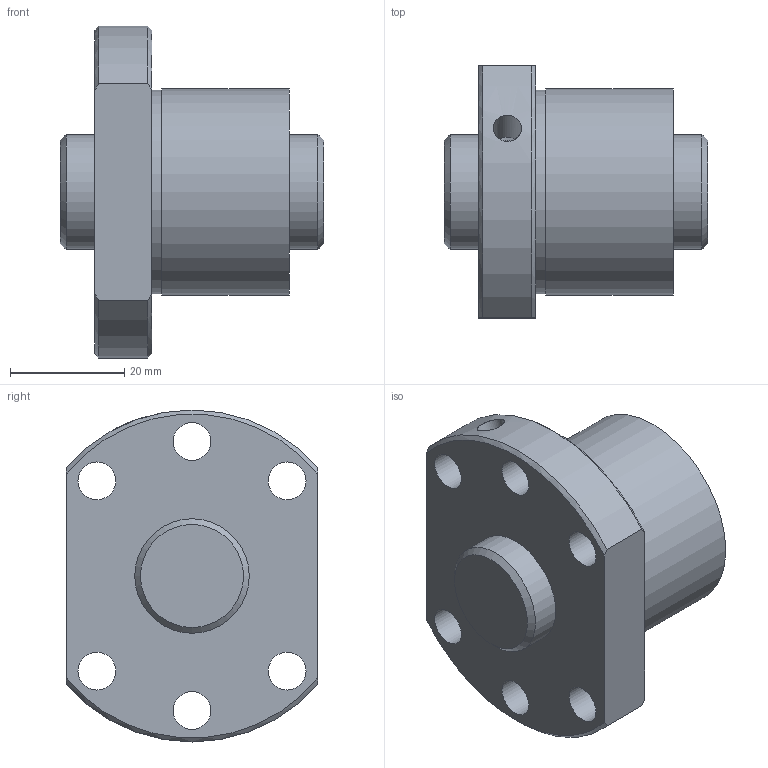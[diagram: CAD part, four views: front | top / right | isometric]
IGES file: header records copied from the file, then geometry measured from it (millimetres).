
Start section: Data from Parasolid IGES Translator 26.0.171, Copyright(c) 2006 Siemens PLM Software. All Rights Reserved.
Global section: file name: SDA2006V-4G0+46LC0(0G000).igs; native system: By Siemens PLM Incorporated; preprocessor: XPlus GENERIC/IGES 26.0.171; author: Noname; organization: Noname; date: 20240528.112954; units: millimetre
Bounding box: 46 x 44 x 58 mm (x, y, z)
Surface area: 15009.5 mm2 (no closed solid volume)
Topology: 0 solids, 0 shells, 29 faces, 136 edges, 118 vertices
Faces by surface type: revolution 21, extrusion 8
